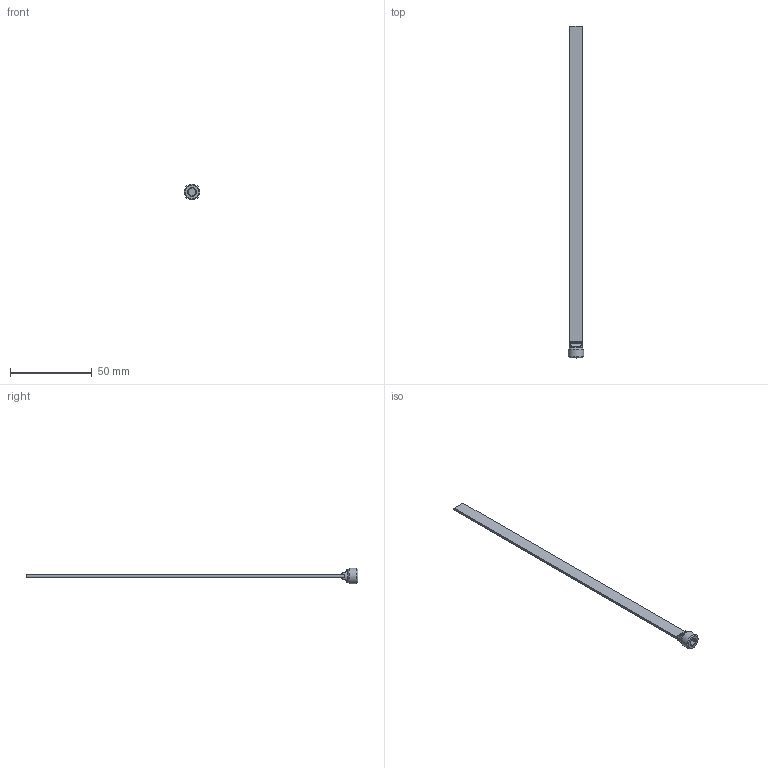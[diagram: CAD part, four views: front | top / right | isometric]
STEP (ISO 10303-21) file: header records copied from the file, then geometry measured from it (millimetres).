
FILE_DESCRIPTION(/* description */ (''),/* implementation_level */ '2;1');
FILE_NAME(/* name */ 'C:/Users/drich/Desktop/SB18X8BSP v1.step',/* time_stamp */ '2020-01-04T16:02:21-06:00',/* author */ (''),/* organization */ (''),/* preprocessor_version */ 'ST-DEVELOPER v18',/* originating_system */ 'Autodesk Translation Framework v8.12.0.6',/* authorisation */ '');
FILE_SCHEMA (('AUTOMOTIVE_DESIGN { 1 0 10303 214 3 1 1 }'));
Length unit declared in the file: inch
Products named in the file (1): SB18X8BSP
Bounding box: 9.62 x 203.2 x 9.62 mm (x, y, z)
Volume: 2650.9 mm3; surface area: 4016.1 mm2
Topology: 1 solids, 1 shells, 35 faces, 100 edges, 68 vertices
Faces by surface type: plane 19, cylinder 8, torus 5, cone 3
Full cylindrical faces by diameter (mm): 7.772 x1, 9.621 x1
Entity records: 1287 total; most frequent: CARTESIAN_POINT 364, ORIENTED_EDGE 200, DIRECTION 171, EDGE_CURVE 100, VERTEX_POINT 68, AXIS2_PLACEMENT_3D 63, LINE 45, VECTOR 45
